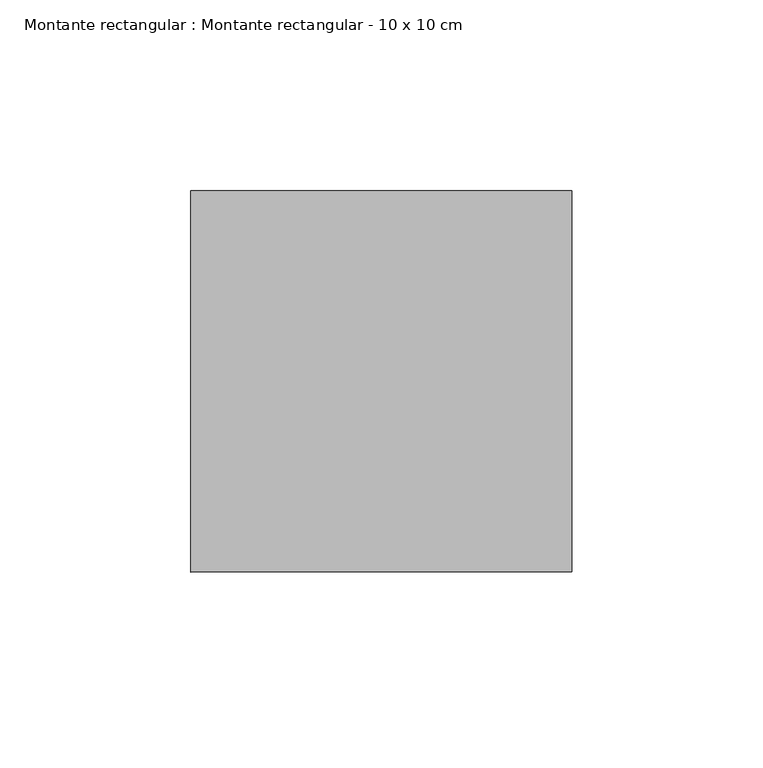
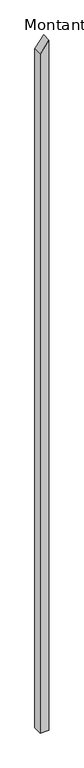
"""IFC4 building model written with IfcOpenShell, lengths in millimetres: member geometry, Montante rectangular : Montante rectangular - 10 x 10 cm."""

from ifc_helpers import new_model, si_unit, frame, origin, place, context, project, spatial, polyline, outline, extrude, source, transform, mapped, element, save


def montante_rectangular_montante_rectangular_10_x_10_cm_7ee5f2cd(model_context):
    return source(origin(), model_context, "Body", "SweptSolid", [
        extrude(outline(polyline([(0.0, 0.0), (-131.5706462, -100.0), (-8174.5629112, -100.0), (-8174.5629112, 0.0), (0.0, 0.0)])), frame((0.0, -50.0, 0.0), z_axis=(0.0, 1.0, 0.0), x_axis=(0.0, 0.0, 1.0)), (0.0, 0.0, 1.0), 100.0),
    ])


if __name__ == "__main__":
    model = new_model("IFC4")
    model_context = context("Model", 3, world=origin())
    ifc_project = project(units=[si_unit("LENGTHUNIT", "METRE", prefix="MILLI")], contexts=[model_context])
    site = spatial("IfcSite", under=ifc_project)
    building = spatial("IfcBuilding", under=site)
    placement = place(None, origin())
    montante_rectangular_montante_rectangular_10_x_10_cm_shape = montante_rectangular_montante_rectangular_10_x_10_cm_7ee5f2cd(model_context)
    element("IfcMember", 1, ObjectType="Montante rectangular : Montante rectangular - 10 x 10 cm", at=placement, inside=building, context=model_context, shape_type="MappedRepresentation", body=[
        mapped(montante_rectangular_montante_rectangular_10_x_10_cm_shape, transform((0.0, 0.0, 0.0), x_axis=(1.0, 0.0, 0.0), y_axis=(0.0, 1.0, 0.0), z_axis=(0.0, 0.0, 1.0))),
    ])
    save(model, "model.ifc")
